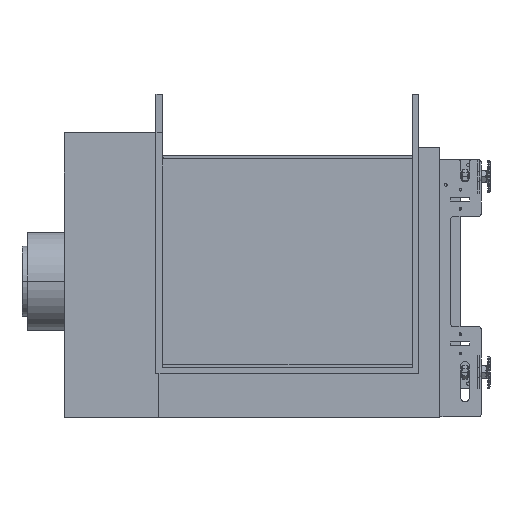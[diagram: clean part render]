
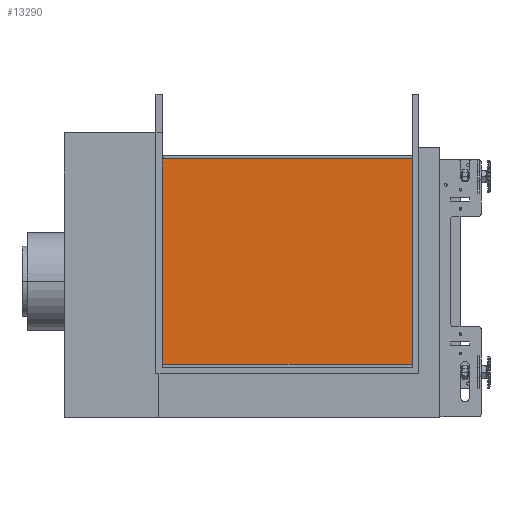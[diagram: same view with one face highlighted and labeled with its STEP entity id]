
A CAD part, left-side view. The second image highlights one B-rep face of the part: STEP entity #13290.
In plain terms, the highlighted planar face has unit normal (-1, 0, 0).
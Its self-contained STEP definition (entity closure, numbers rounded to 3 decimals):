
#12110=CARTESIAN_POINT('',(1455.384,-9.4,
436.696));
#12120=VERTEX_POINT('',#12110);
#12270=CARTESIAN_POINT('',(1455.384,-9.4,
103.696));
#12280=VERTEX_POINT('',#12270);
#12310=CARTESIAN_POINT('',(1455.384,-9.4,
270.196));
#12320=DIRECTION('',(0.,0.,1.));
#12330=VECTOR('',#12320,1.);
#12340=LINE('',#12310,#12330);
#12350=EDGE_CURVE('',#12280,#12120,#12340,.T.);
#12490=CARTESIAN_POINT('',(1455.384,392.6,
436.696));
#12500=VERTEX_POINT('',#12490);
#12560=CARTESIAN_POINT('',(1455.384,191.6,
436.696));
#12570=DIRECTION('',(0.,1.,0.));
#12580=VECTOR('',#12570,1.);
#12590=LINE('',#12560,#12580);
#12600=EDGE_CURVE('',#12120,#12500,#12590,.T.);
#12740=CARTESIAN_POINT('',(1455.384,392.6,
103.696));
#12750=VERTEX_POINT('',#12740);
#12870=CARTESIAN_POINT('',(1455.384,392.6,
270.196));
#12880=DIRECTION('',(0.,0.,-1.));
#12890=VECTOR('',#12880,1.);
#12900=LINE('',#12870,#12890);
#12910=EDGE_CURVE('',#12500,#12750,#12900,.T.);
#13090=CARTESIAN_POINT('',(1455.384,191.6,
103.696));
#13100=DIRECTION('',(0.,-1.,0.));
#13110=VECTOR('',#13100,1.);
#13120=LINE('',#13090,#13110);
#13130=EDGE_CURVE('',#12750,#12280,#13120,.T.);
#13180=CARTESIAN_POINT('',(1455.384,24.6,
92.446));
#13190=DIRECTION('',(-1.,0.,0.));
#13200=DIRECTION('',(0.,0.,1.));
#13210=AXIS2_PLACEMENT_3D('',#13180,#13190,#13200);
#13220=PLANE('',#13210);
#13230=ORIENTED_EDGE('',*,*,#13130,.T.);
#13240=ORIENTED_EDGE('',*,*,#12910,.T.);
#13250=ORIENTED_EDGE('',*,*,#12600,.T.);
#13260=ORIENTED_EDGE('',*,*,#12350,.T.);
#13270=EDGE_LOOP('',(#13260,#13250,#13240,#13230));
#13280=FACE_OUTER_BOUND('',#13270,.T.);
#13290=ADVANCED_FACE('',(#13280),#13220,.T.);
